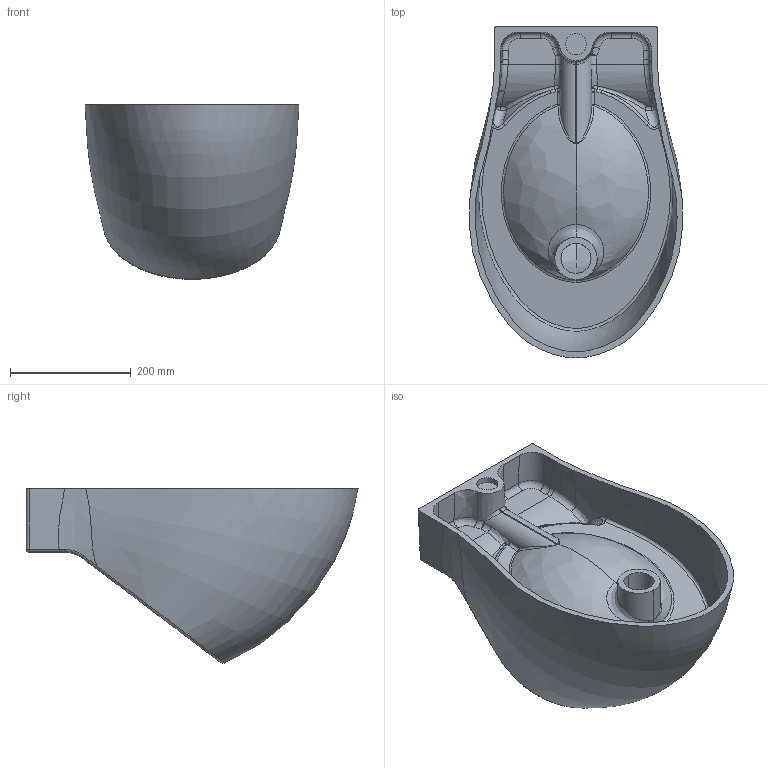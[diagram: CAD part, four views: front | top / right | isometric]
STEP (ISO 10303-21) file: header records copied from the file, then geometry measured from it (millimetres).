
FILE_DESCRIPTION (( 'STEP AP214' ), '1' );
FILE_NAME ('NUV100_OR.STEP', '2017-12-07T11:03:16', ( '' ), ( '' ), 'SwSTEP 2.0', 'SolidWorks 2018', '' );
FILE_SCHEMA (( 'AUTOMOTIVE_DESIGN' ));
Length unit declared in the file: millimetre
Products named in the file (1): NUV100_OR
Bounding box: 354.44 x 550 x 289.23 mm (x, y, z)
Volume: 9105615.2 mm3; surface area: 820388.9 mm2
Topology: 1 solids, 1 shells, 133 faces, 325 edges, 189 vertices
Faces by surface type: bspline 76, cylinder 28, plane 19, torus 5, cone 3, sphere 2
Entity records: 30930 total; most frequent: CARTESIAN_POINT 28402, ORIENTED_EDGE 634, DIRECTION 367, EDGE_CURVE 317, VERTEX_POINT 189, AXIS2_PLACEMENT_3D 157, B_SPLINE_CURVE_WITH_KNOTS 149, EDGE_LOOP 138
